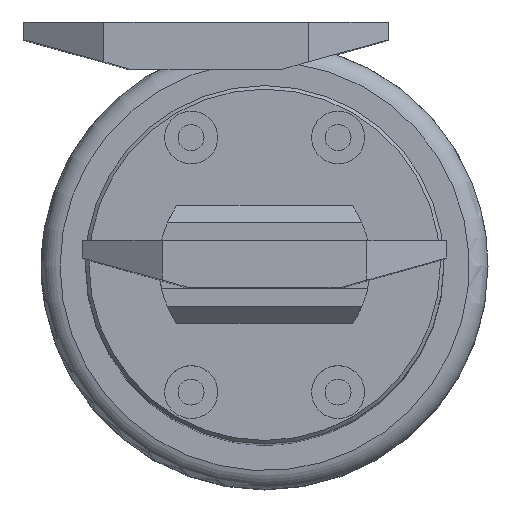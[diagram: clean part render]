
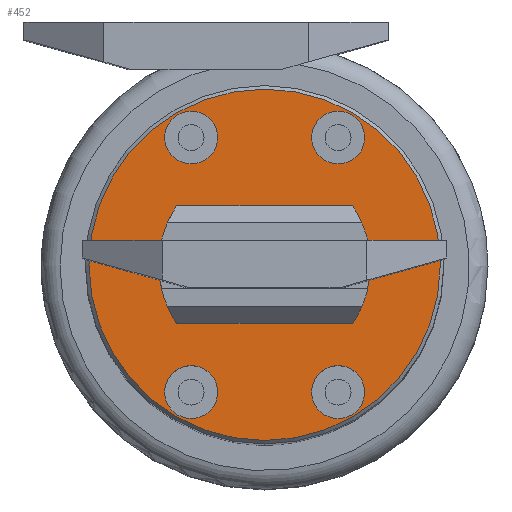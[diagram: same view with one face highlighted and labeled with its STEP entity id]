
A CAD part, top view. The second image highlights one B-rep face of the part: STEP entity #452.
In plain terms, the highlighted planar face has unit normal (0, 0, 1).
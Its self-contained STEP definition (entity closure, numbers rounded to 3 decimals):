
#452 = ADVANCED_FACE( '', ( #1233, #1234, #1235, #1236, #1237, #1238 ), #1239, .F. );
#1233 = FACE_OUTER_BOUND( '', #2443, .T. );
#1234 = FACE_BOUND( '', #2444, .T. );
#1235 = FACE_BOUND( '', #2445, .T. );
#1236 = FACE_BOUND( '', #2446, .T. );
#1237 = FACE_BOUND( '', #2447, .T. );
#1238 = FACE_BOUND( '', #2448, .T. );
#1239 = PLANE( '', #2449 );
#2443 = EDGE_LOOP( '', ( #4902 ) );
#2444 = EDGE_LOOP( '', ( #4903 ) );
#2445 = EDGE_LOOP( '', ( #4904 ) );
#2446 = EDGE_LOOP( '', ( #4905 ) );
#2447 = EDGE_LOOP( '', ( #4906 ) );
#2448 = EDGE_LOOP( '', ( #4907 ) );
#2449 = AXIS2_PLACEMENT_3D( '', #4908, #4909, #4910 );
#4902 = ORIENTED_EDGE( '', *, *, #6182, .T. );
#4903 = ORIENTED_EDGE( '', *, *, #6183, .F. );
#4904 = ORIENTED_EDGE( '', *, *, #6154, .F. );
#4905 = ORIENTED_EDGE( '', *, *, #6157, .F. );
#4906 = ORIENTED_EDGE( '', *, *, #5866, .F. );
#4907 = ORIENTED_EDGE( '', *, *, #6129, .F. );
#4908 = CARTESIAN_POINT( '', ( 20.469, -16.722, 86.008 ) );
#4909 = DIRECTION( '', ( 0., 0., -1. ) );
#4910 = DIRECTION( '', ( 0., 1., 0. ) );
#5866 = EDGE_CURVE( '', #7019, #7019, #7020, .T. );
#6129 = EDGE_CURVE( '', #7452, #7452, #7453, .T. );
#6154 = EDGE_CURVE( '', #7492, #7492, #7493, .T. );
#6157 = EDGE_CURVE( '', #7498, #7498, #7499, .T. );
#6182 = EDGE_CURVE( '', #7534, #7534, #7535, .T. );
#6183 = EDGE_CURVE( '', #7536, #7536, #7537, .T. );
#7019 = VERTEX_POINT( '', #9332 );
#7020 = CIRCLE( '', #9333, 2.25 );
#7452 = VERTEX_POINT( '', #10523 );
#7453 = CIRCLE( '', #10524, 2.25 );
#7492 = VERTEX_POINT( '', #10579 );
#7493 = CIRCLE( '', #10580, 2.25 );
#7498 = VERTEX_POINT( '', #10585 );
#7499 = CIRCLE( '', #10586, 2.25 );
#7534 = VERTEX_POINT( '', #10632 );
#7535 = CIRCLE( '', #10633, 14.94 );
#7536 = VERTEX_POINT( '', #10634 );
#7537 = CIRCLE( '', #10635, 5. );
#9332 = CARTESIAN_POINT( '', ( 24.469, -27.547, 86.008 ) );
#9333 = AXIS2_PLACEMENT_3D( '', #11300, #11301, #11302 );
#10523 = CARTESIAN_POINT( '', ( 11.969, -27.547, 86.008 ) );
#10524 = AXIS2_PLACEMENT_3D( '', #11678, #11679, #11680 );
#10579 = CARTESIAN_POINT( '', ( 16.469, -5.897, 86.008 ) );
#10580 = AXIS2_PLACEMENT_3D( '', #11721, #11722, #11723 );
#10585 = CARTESIAN_POINT( '', ( 28.969, -5.897, 86.008 ) );
#10586 = AXIS2_PLACEMENT_3D( '', #11730, #11731, #11732 );
#10632 = CARTESIAN_POINT( '', ( 35.409, -16.722, 86.008 ) );
#10633 = AXIS2_PLACEMENT_3D( '', #11783, #11784, #11785 );
#10634 = CARTESIAN_POINT( '', ( 25.469, -16.722, 86.008 ) );
#10635 = AXIS2_PLACEMENT_3D( '', #11786, #11787, #11788 );
#11300 = CARTESIAN_POINT( '', ( 26.719, -27.547, 86.008 ) );
#11301 = DIRECTION( '', ( 0., 0., 1. ) );
#11302 = DIRECTION( '', ( -1., 0., 0. ) );
#11678 = CARTESIAN_POINT( '', ( 14.219, -27.547, 86.008 ) );
#11679 = DIRECTION( '', ( 0., 0., 1. ) );
#11680 = DIRECTION( '', ( -1., 0., 0. ) );
#11721 = CARTESIAN_POINT( '', ( 14.219, -5.897, 86.008 ) );
#11722 = DIRECTION( '', ( 0., 0., 1. ) );
#11723 = DIRECTION( '', ( 1., 0., 0. ) );
#11730 = CARTESIAN_POINT( '', ( 26.719, -5.897, 86.008 ) );
#11731 = DIRECTION( '', ( 0., 0., 1. ) );
#11732 = DIRECTION( '', ( 1., 0., 0. ) );
#11783 = CARTESIAN_POINT( '', ( 20.469, -16.722, 86.008 ) );
#11784 = DIRECTION( '', ( 0., 0., 1. ) );
#11785 = DIRECTION( '', ( 1., 0., 0. ) );
#11786 = CARTESIAN_POINT( '', ( 20.469, -16.722, 86.008 ) );
#11787 = DIRECTION( '', ( 0., 0., 1. ) );
#11788 = DIRECTION( '', ( 1., 0., 0. ) );
